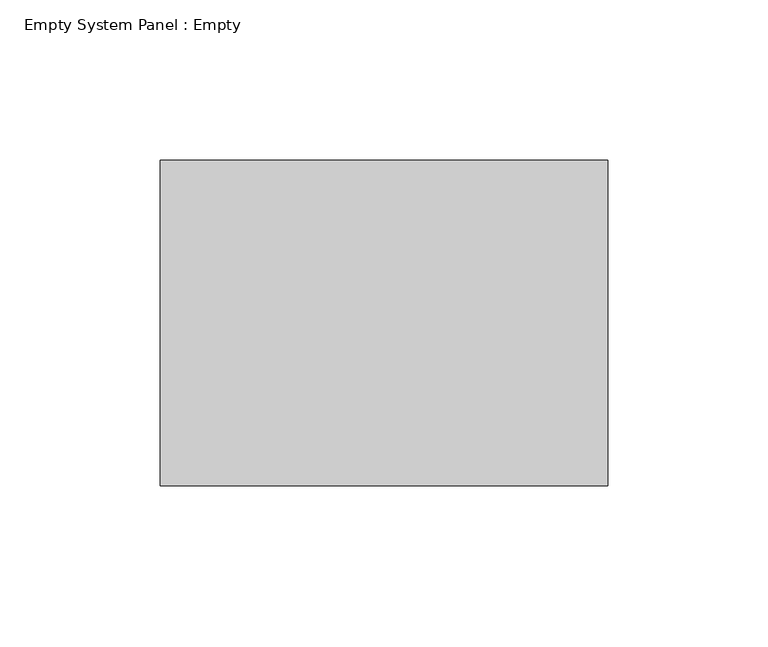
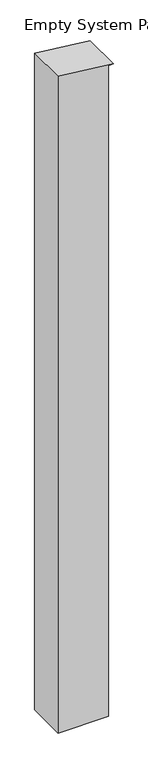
"""IFC4 building model written with IfcOpenShell, lengths in millimetres: plate geometry, Empty System Panel : Empty."""

from ifc_helpers import new_model, si_unit, frame, origin, place, context, project, spatial, polyline, outline, extrude, source, transform, mapped, element, save


def empty_system_panel_empty_507b9f8d(model_context):
    return source(origin(), model_context, "Body", "SweptSolid", [
        extrude(outline(polyline([(0.0, -69.85), (0.0, 57.15), (1735.6626453, 57.15), (1735.6626453, 69.85), (1751.2878352, -69.85), (0.0, -69.85)])), frame((0.0, -50.8, 0.0), z_axis=(0.0, 1.0, 0.0), x_axis=(0.0, 0.0, 1.0)), (0.0, 0.0, 1.0), 101.6),
    ])


if __name__ == "__main__":
    model = new_model("IFC4")
    model_context = context("Model", 3, world=origin())
    ifc_project = project(units=[si_unit("LENGTHUNIT", "METRE", prefix="MILLI")], contexts=[model_context])
    site = spatial("IfcSite", under=ifc_project)
    building = spatial("IfcBuilding", under=site)
    placement = place(None, origin())
    empty_system_panel_empty_shape = empty_system_panel_empty_507b9f8d(model_context)
    element("IfcPlate", 1, ObjectType="Empty System Panel : Empty", at=placement, inside=building, context=model_context, shape_type="MappedRepresentation", body=[
        mapped(empty_system_panel_empty_shape, transform((0.0, 0.0, 0.0), x_axis=(1.0, 0.0, 0.0), y_axis=(0.0, 1.0, 0.0), z_axis=(0.0, 0.0, 1.0))),
    ])
    save(model, "model.ifc")
